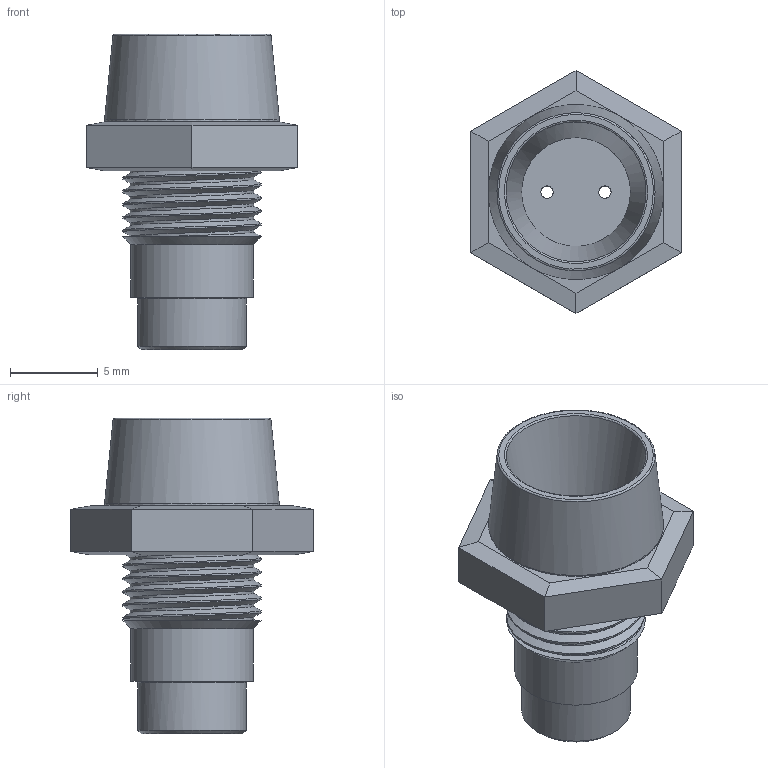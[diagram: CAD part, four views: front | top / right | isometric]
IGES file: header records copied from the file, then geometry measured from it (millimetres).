
Global section: file name: LED holder 5mm; native system: unknown; preprocessor: unknown; author: mkochendoerfer; organization: unknown; date: 20190313.005926; units: millimetre
Bounding box: 12 x 13.86 x 18 mm (x, y, z)
Volume: 719.8 mm3; surface area: 1274.7 mm2
Topology: 2 solids, 2 shells, 47 faces, 105 edges, 65 vertices
Faces by surface type: bspline 47
